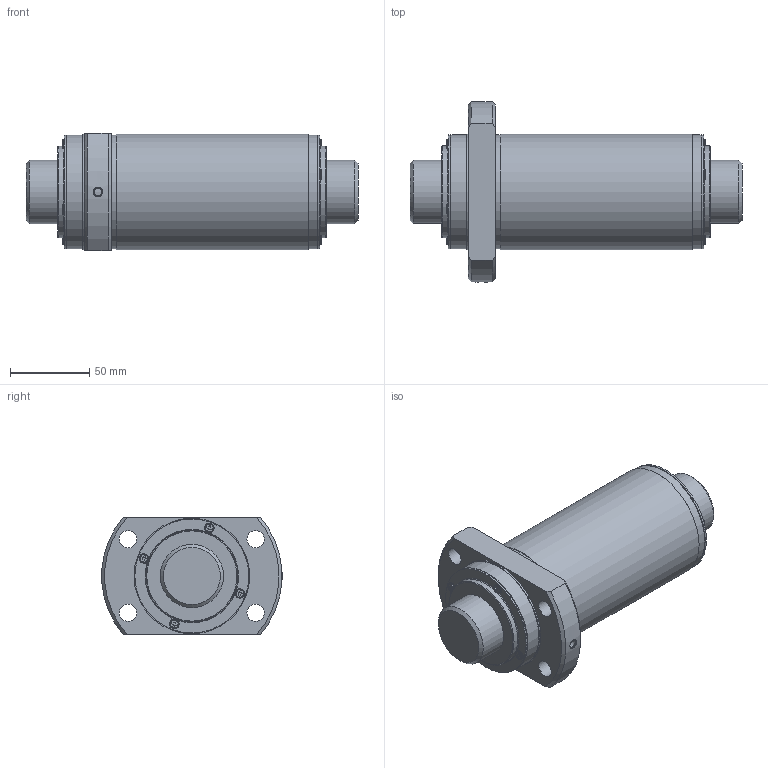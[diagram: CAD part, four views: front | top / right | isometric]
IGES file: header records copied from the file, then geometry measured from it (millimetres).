
Start section: Data from Parasolid IGES Translator 26.0.171, Copyright(c) 2006 Siemens PLM Software. All Rights Reserved.
Global section: file name: WTF4080-3ZZ+209.8LC7T_000_rev.igs; native system: By Siemens PLM Incorporated; preprocessor: XPlus GENERIC/IGES 26.0.171; author: Noname; organization: Noname; date: 20250611.064129; units: millimetre
Bounding box: 209.8 x 113.82 x 74 mm (x, y, z)
Surface area: 105565.8 mm2 (no closed solid volume)
Topology: 0 solids, 0 shells, 214 faces, 1134 edges, 1075 vertices
Faces by surface type: extrusion 127, revolution 87
